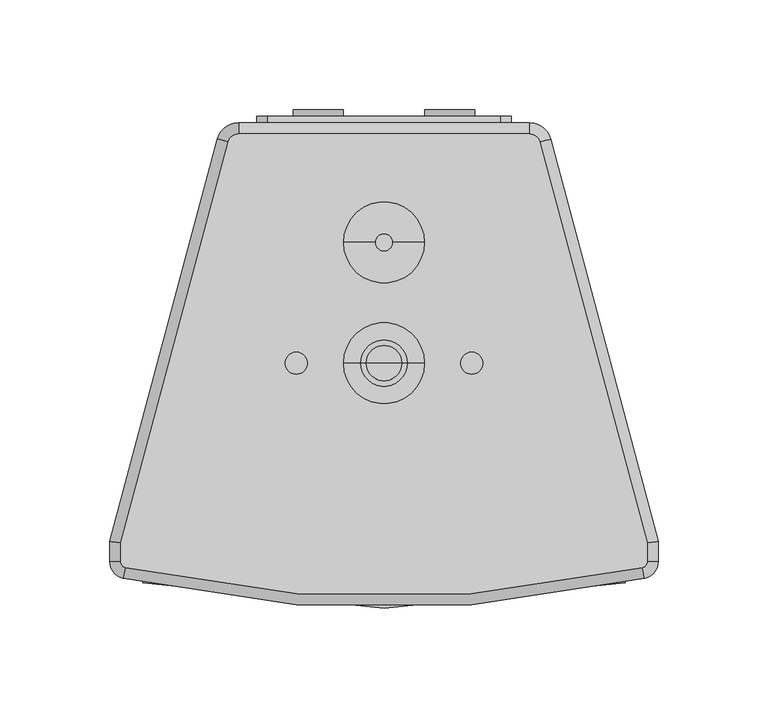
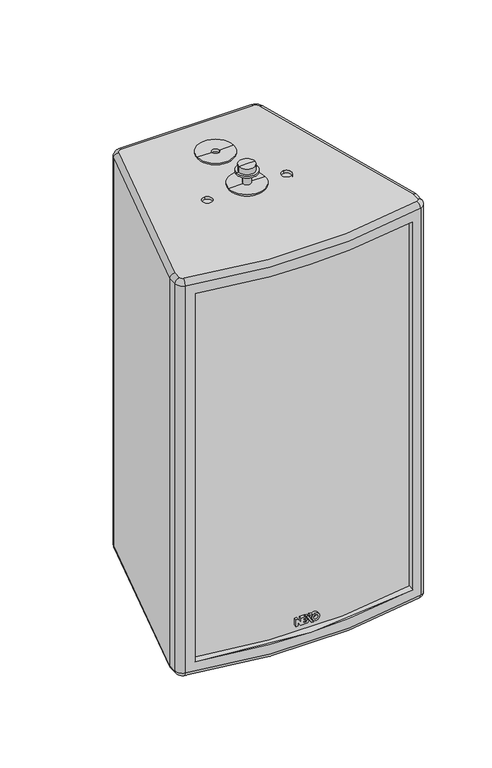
"""IFC4 building model written with IfcOpenShell, lengths in millimetres: proxy geometry, ePS8-HBRK425-WVM : ePS8-HBRK425-WVM."""

from ifc_helpers import new_model, si_unit, point, frame, frame_2d, origin, place, context, project, spatial, polyline, circle_curve, ellipse_curve, trimmed, segment, composite_curve, outline, extrude, source, transform, mapped, element, save
from ifc_brep_helpers import plane_surface, cylinder_surface, revolved_surface, advanced_brep


def generic_models_3f4bfca9(model_context):
    return source(origin(), model_context, "Body", "SolidModel", [
        extrude(outline(polyline([(-182.0590531, -11.9363528), (-189.3388202, -11.9363528), (-189.3388202, -10.0439855), (-185.1734899, -10.0439855), (-189.3388202, -7.2688886), (-189.3388202, -0.4179789), (-187.463849, 0.9005934), (-185.8643156, -0.1627837), (-187.7361557, -1.5323263), (-187.7361557, -4.5659556), (-186.4818684, -4.5659556), (-186.4818684, -2.2828427), (-184.8791381, -2.2828427), (-184.8791381, -4.5659556), (-183.6626349, -4.5659556), (-183.6626349, -2.1588809), (-182.8626349, -2.1588809), (-182.0599046, -2.6925396), (-182.0599046, -6.9609157), (-186.5099607, -6.9706073), (-182.0590531, -9.9098734), (-182.0590531, -11.9363528)])), frame((0.0, -298.5012591, 0.0), z_axis=(0.0, 1.0, 0.0), x_axis=(0.0, 0.0, 1.0)), (0.0, 0.0, 1.0), 3.0),
        extrude(outline(polyline([(-182.0590531, -2.0512245), (-190.3, 3.4273947), (-190.3, 5.6205974), (-182.0590531, 0.1419782), (-182.0590531, -2.0512245)])), frame((0.0, -298.5012591, 0.0), z_axis=(0.0, 1.0, 0.0), x_axis=(0.0, 0.0, 1.0)), (0.0, 0.0, 1.0), 3.0),
        extrude(outline(polyline([(-182.0590531, 4.6894095), (-182.0590531, 2.362619), (-183.3270101, 1.6148247), (-184.957904, 2.6990504), (-182.0590531, 4.6894095)])), frame((0.0, -298.5012591, 0.0), z_axis=(0.0, 1.0, 0.0), x_axis=(0.0, 0.0, 1.0)), (0.0, 0.0, 1.0), 3.0),
        extrude(outline(composite_curve([segment(trimmed(circle_curve(frame_2d((-185.7298911, 8.0750207)), 3.9406238), [point((-185.7298911, 4.1343969))], [point((-185.7298911, 12.0156446))], False, "CARTESIAN"), True, "CONTINUOUS"), segment(trimmed(circle_curve(frame_2d((-185.7298911, 8.0750207)), 3.9406238), [point((-185.7298911, 12.0156446))], [point((-185.7298911, 4.1343969))], False, "CARTESIAN"), True, "CONTINUOUS")], self_intersect=False), holes=[composite_curve([segment(trimmed(circle_curve(frame_2d((-185.7298911, 8.0750207)), 2.0681078), [point((-185.7298911, 6.0069129))], [point((-185.7298911, 10.1431285))], True, "CARTESIAN"), True, "CONTINUOUS"), segment(trimmed(circle_curve(frame_2d((-185.7298911, 8.0750207)), 2.0681078), [point((-185.7298911, 10.1431285))], [point((-185.7298911, 6.0069129))], True, "CARTESIAN"), True, "CONTINUOUS")], self_intersect=False)]), frame((0.0, -298.5012591, 0.0), z_axis=(0.0, 1.0, 0.0), x_axis=(0.0, 0.0, 1.0)), (0.0, 0.0, 1.0), 3.0),
        extrude(outline(composite_curve([segment(trimmed(circle_curve(frame_2d((-174.0, 30.0)), 11.4515227), [point((-174.0, 41.4515227))], [point((-174.0, 18.5484773))], False, "CARTESIAN"), True, "CONTINUOUS"), segment(trimmed(circle_curve(frame_2d((-174.0, 30.0)), 11.4515227), [point((-174.0, 18.5484773))], [point((-174.0, 41.4515227))], False, "CARTESIAN"), True, "CONTINUOUS")], self_intersect=False), holes=[composite_curve([segment(trimmed(circle_curve(frame_2d((-174.0, 30.0)), 5.0), [point((-174.0, 35.0))], [point((-174.0, 25.0))], True, "CARTESIAN"), True, "CONTINUOUS"), segment(trimmed(circle_curve(frame_2d((-174.0, 30.0)), 5.0), [point((-174.0, 25.0))], [point((-174.0, 35.0))], True, "CARTESIAN"), True, "CONTINUOUS")], self_intersect=False)]), frame((0.0, -79.5012591, 0.0), z_axis=(0.0, 1.0, 0.0), x_axis=(0.0, 0.0, 1.0)), (0.0, 0.0, 1.0), 3.0),
        extrude(outline(composite_curve([segment(trimmed(circle_curve(frame_2d((-174.0, -30.0)), 11.4515227), [point((-174.0, -18.5484773))], [point((-174.0, -41.4515227))], False, "CARTESIAN"), True, "CONTINUOUS"), segment(trimmed(circle_curve(frame_2d((-174.0, -30.0)), 11.4515227), [point((-174.0, -41.4515227))], [point((-174.0, -18.5484773))], False, "CARTESIAN"), True, "CONTINUOUS")], self_intersect=False), holes=[composite_curve([segment(trimmed(circle_curve(frame_2d((-174.0, -30.0)), 5.0), [point((-174.0, -25.0))], [point((-174.0, -35.0))], True, "CARTESIAN"), True, "CONTINUOUS"), segment(trimmed(circle_curve(frame_2d((-174.0, -30.0)), 5.0), [point((-174.0, -35.0))], [point((-174.0, -25.0))], True, "CARTESIAN"), True, "CONTINUOUS")], self_intersect=False)]), frame((0.0, -79.5012591, 0.0), z_axis=(0.0, 1.0, 0.0), x_axis=(0.0, 0.0, 1.0)), (0.0, 0.0, 1.0), 3.0),
        extrude(outline(composite_curve([segment(polyline([(-155.0, 53.0), (-155.0, -53.0)]), True, "CONTINUOUS"), segment(trimmed(circle_curve(frame_2d((-160.0, -53.0)), 5.0), [point((-155.0, -53.0))], [point((-160.0, -58.0))], False, "CARTESIAN"), True, "CONTINUOUS"), segment(polyline([(-160.0, -58.0), (-188.0, -58.0)]), True, "CONTINUOUS"), segment(trimmed(circle_curve(frame_2d((-188.0, -53.0)), 5.0), [point((-188.0, -58.0))], [point((-193.0, -53.0))], False, "CARTESIAN"), True, "CONTINUOUS"), segment(polyline([(-193.0, -53.0), (-193.0, 53.0)]), True, "CONTINUOUS"), segment(trimmed(circle_curve(frame_2d((-188.0, 53.0)), 5.0), [point((-193.0, 53.0))], [point((-188.0, 58.0))], False, "CARTESIAN"), True, "CONTINUOUS"), segment(polyline([(-188.0, 58.0), (-160.0, 58.0)]), True, "CONTINUOUS"), segment(trimmed(circle_curve(frame_2d((-160.0, 53.0)), 5.0), [point((-160.0, 58.0))], [point((-155.0, 53.0))], False, "CARTESIAN"), True, "CONTINUOUS")], self_intersect=False)), frame((0.0, -82.5012591, 0.0), z_axis=(0.0, 1.0, 0.0), x_axis=(0.0, 0.0, 1.0)), (0.0, 0.0, 1.0), 3.0),
        advanced_brep(
        [(-71.0680005, -91.2071639, 211.5), (-120.0, -273.8238721, 211.5), (-120.0, -282.3307346, 211.5), (-117.6705435, -285.2548364, 211.5), (117.6705435, -285.2548364, 211.5), (120.0, -282.3307346, 211.5), (120.0, -273.8238721, 211.5), (71.0680005, -91.2071639, 211.5), (66.2383714, -87.5012591, 211.5), (-66.2383714, -87.5012591, 211.5), (0.0, -197.0012591, 211.5), (0.0, -187.0012591, 211.5), (-40.0, -197.0012591, 211.5), (-40.0, -187.0012591, 211.5), (40.0, -197.0012591, 211.5), (40.0, -187.0012591, 211.5), (-120.0, -273.8238721, -211.5), (-71.0680005, -91.2071639, -211.5), (-66.2383714, -87.5012591, -211.5), (66.2383714, -87.5012591, -211.5), (71.0680005, -91.2071639, -211.5), (120.0, -273.8238721, -211.5), (120.0, -282.3307346, -211.5), (117.6705435, -285.2548364, -211.5), (-117.6705435, -285.2548364, -211.5), (-120.0, -282.3307346, -211.5), (0.0, -187.0012591, -211.5), (0.0, -197.0012591, -211.5), (-40.0, -187.0012591, -211.5), (-40.0, -197.0012591, -211.5), (40.0, -187.0012591, -211.5), (40.0, -197.0012591, -211.5), (-66.2383714, -82.5012591, 206.5), (66.2383714, -82.5012591, 206.5), (66.2383714, -82.5012591, -206.5), (-66.2383714, -82.5012591, -206.5), (-47.3432823, -82.5012591, 20.0043019), (-58.6566026, -82.5012591, 20.0043019), (22.6567177, -82.5012591, 20.0043019), (11.3433974, -82.5012591, 20.0043019), (22.6567177, -82.5012591, 90.0043019), (11.3433974, -82.5012591, 90.0043019), (118.788116, -290.1283395, 206.5), (-118.788116, -290.1283395, 206.5), (-118.788116, -290.1283395, -206.4999999), (118.788116, -290.1283395, -206.5), (-110.0, -292.0654279, 196.5), (110.0, -292.0654279, 196.5), (110.0, -292.0654279, -196.5), (-110.0, -292.0654279, -196.5), (125.0, -282.3307346, 206.5), (125.0, -282.3307346, -206.5), (125.0, -273.1656096, 206.5), (125.0, -273.1656096, -206.5), (75.8976296, -89.9130687, 206.5), (75.8976296, -89.9130687, -206.5), (-75.8976296, -89.9130687, 206.5), (-75.8976296, -89.9130687, -206.5), (-125.0, -273.1656096, 206.5), (-125.0, -273.1656096, -206.5), (-125.0, -282.3307346, 206.5), (-125.0, -282.3307346, -206.5), (0.0, -187.0012591, 208.5), (0.0, -197.0012591, 208.5), (-40.0, -187.0012591, 208.5), (-40.0, -197.0012591, 208.5), (40.0, -187.0012591, 208.5), (40.0, -197.0012591, 208.5), (-110.0, -285.324694, 196.5), (110.0, -285.2150263, 196.5), (110.0, -285.2150263, -196.5), (-110.0, -285.324694, -196.5), (0.0, -187.0012591, -208.5), (0.0, -197.0012591, -208.5), (-40.0, -187.0012591, -208.5), (-40.0, -197.0012591, -208.5), (40.0, -187.0012591, -208.5), (40.0, -197.0012591, -208.5), (-47.3432823, -85.5012591, 20.0043019), (-58.6566026, -85.5012591, 20.0043019), (22.6567177, -85.5012591, 20.0043019), (11.3433974, -85.5012591, 20.0043019), (22.6567177, -85.5012591, 90.0043019), (11.3433974, -85.5012591, 90.0043019)],
        [
            (0, 1),
            (1, 2),
            (2, 3, circle_curve(frame((-117.0, -282.3307346, 211.5), z_axis=(0.0, 0.0, 1.0), x_axis=(-0.2235144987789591, -0.9747006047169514, 0.0)), 3.0)),
            (3, 4, circle_curve(frame((0.0, 227.8821213, 211.5), z_axis=(0.0, 0.0, 1.0), x_axis=(0.22351449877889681, -0.9747006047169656, 0.0)), 526.4559755)),
            (4, 5, circle_curve(frame((117.0, -282.3307346, 211.5), z_axis=(0.0, 0.0, 1.0), x_axis=(1.0, 0.0, 0.0)), 3.0)),
            (5, 6),
            (6, 7),
            (7, 8, circle_curve(frame((66.2383714, -92.5012591, 211.5), z_axis=(0.0, 0.0, 1.0), x_axis=(0.0, 1.0, 0.0)), 5.0)),
            (8, 9),
            (9, 0, circle_curve(frame((-66.2383714, -92.5012591, 211.5), z_axis=(0.0, 0.0, 1.0), x_axis=(-0.965925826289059, 0.25881904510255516, 0.0)), 5.0)),
            (10, 11, circle_curve(frame((0.0, -192.0012591, 211.5), z_axis=(0.0, 0.0, -1.0), x_axis=(0.0, -1.0, 0.0)), 5.0)),
            (11, 10, circle_curve(frame((0.0, -192.0012591, 211.5), z_axis=(0.0, 0.0, -1.0), x_axis=(0.0, -1.0, 0.0)), 5.0)),
            (12, 13, circle_curve(frame((-40.0, -192.0012591, 211.5), z_axis=(0.0, 0.0, -1.0), x_axis=(0.0, -1.0, 0.0)), 5.0)),
            (13, 12, circle_curve(frame((-40.0, -192.0012591, 211.5), z_axis=(0.0, 0.0, -1.0), x_axis=(0.0, -1.0, 0.0)), 5.0)),
            (14, 15, circle_curve(frame((40.0, -192.0012591, 211.5), z_axis=(0.0, 0.0, -1.0), x_axis=(0.0, -1.0, 0.0)), 5.0)),
            (15, 14, circle_curve(frame((40.0, -192.0012591, 211.5), z_axis=(0.0, 0.0, -1.0), x_axis=(0.0, -1.0, 0.0)), 5.0)),
            (16, 17),
            (17, 18, circle_curve(frame((-66.2383714, -92.5012591, -211.5), z_axis=(0.0, 0.0, -1.0), x_axis=(-0.96592582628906, 0.2588190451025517, 0.0)), 5.0)),
            (18, 19),
            (19, 20, circle_curve(frame((66.2383714, -92.5012591, -211.5), z_axis=(0.0, 0.0, -1.0), x_axis=(0.0, 1.0, 0.0)), 5.0)),
            (20, 21),
            (21, 22),
            (22, 23, circle_curve(frame((117.0, -282.3307346, -211.5), z_axis=(0.0, 0.0, -1.0), x_axis=(1.0, 0.0, 0.0)), 3.0)),
            (23, 24, circle_curve(frame((0.0, 227.8821213, -211.5), z_axis=(0.0, 0.0, -1.0), x_axis=(0.22351449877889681, -0.9747006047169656, 0.0)), 526.4559755)),
            (24, 25, circle_curve(frame((-117.0, -282.3307346, -211.5), z_axis=(0.0, 0.0, -1.0), x_axis=(-0.2235144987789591, -0.9747006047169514, 0.0)), 3.0)),
            (25, 16),
            (26, 27, circle_curve(frame((0.0, -192.0012591, -211.5), z_axis=(0.0, 0.0, 1.0), x_axis=(0.0, -1.0, 0.0)), 5.0)),
            (27, 26, circle_curve(frame((0.0, -192.0012591, -211.5), z_axis=(0.0, 0.0, 1.0), x_axis=(0.0, -1.0, 0.0)), 5.0)),
            (28, 29, circle_curve(frame((-40.0, -192.0012591, -211.5), z_axis=(0.0, 0.0, 1.0), x_axis=(0.0, -1.0, 0.0)), 5.0)),
            (29, 28, circle_curve(frame((-40.0, -192.0012591, -211.5), z_axis=(0.0, 0.0, 1.0), x_axis=(0.0, -1.0, 0.0)), 5.0)),
            (30, 31, circle_curve(frame((40.0, -192.0012591, -211.5), z_axis=(0.0, 0.0, 1.0), x_axis=(0.0, -1.0, 0.0)), 5.0)),
            (31, 30, circle_curve(frame((40.0, -192.0012591, -211.5), z_axis=(0.0, 0.0, 1.0), x_axis=(0.0, -1.0, 0.0)), 5.0)),
            (32, 33),
            (33, 34),
            (34, 35),
            (35, 32),
            (36, 37, circle_curve(frame((-52.9999424, -82.5012591, 20.0043019), z_axis=(0.0, -1.0, 0.0), x_axis=(-1.0, 0.0, 0.0)), 5.6566602)),
            (37, 36, circle_curve(frame((-52.9999424, -82.5012591, 20.0043019), z_axis=(0.0, -1.0, 0.0), x_axis=(-1.0, 0.0, 0.0)), 5.6566602)),
            (38, 39, circle_curve(frame((17.0000576, -82.5012591, 20.0043019), z_axis=(0.0, -1.0, 0.0), x_axis=(-1.0, 0.0, 0.0)), 5.6566602)),
            (39, 38, circle_curve(frame((17.0000576, -82.5012591, 20.0043019), z_axis=(0.0, -1.0, 0.0), x_axis=(-1.0, 0.0, 0.0)), 5.6566602)),
            (40, 41, circle_curve(frame((17.0000576, -82.5012591, 90.0043019), z_axis=(0.0, -1.0, 0.0), x_axis=(-1.0, 0.0, 0.0)), 5.6566602)),
            (41, 40, circle_curve(frame((17.0000576, -82.5012591, 90.0043019), z_axis=(0.0, -1.0, 0.0), x_axis=(-1.0, 0.0, 0.0)), 5.6566602)),
            (42, 43, circle_curve(frame((0.0, 227.8821213, 206.5), z_axis=(0.0, 0.0, -1.0), x_axis=(1.0, 0.0, 0.0)), 531.4559755)),
            (43, 44),
            (44, 45, circle_curve(frame((0.0, 227.8821213, -206.5), z_axis=(0.0, 0.0, 1.0), x_axis=(1.0, 0.0, 0.0)), 531.4559755)),
            (45, 42),
            (46, 47, circle_curve(frame((0.0, 227.8821213, 196.5), z_axis=(0.0, 0.0, 1.0), x_axis=(1.0, 0.0, 0.0)), 531.4559755)),
            (47, 48),
            (48, 49, circle_curve(frame((0.0, 227.8821213, -196.5), z_axis=(0.0, 0.0, -1.0), x_axis=(1.0, 0.0, 0.0)), 531.4559755)),
            (49, 46),
            (50, 42, circle_curve(frame((117.0, -282.3307346, 206.5), z_axis=(0.0, 0.0, -1.0), x_axis=(1.0, 0.0, 0.0)), 8.0)),
            (45, 51, circle_curve(frame((117.0, -282.3307346, -206.5), z_axis=(0.0, 0.0, 1.0), x_axis=(1.0, 0.0, 0.0)), 8.0)),
            (51, 50),
            (52, 50),
            (51, 53),
            (53, 52),
            (54, 52),
            (53, 55),
            (55, 54),
            (33, 54, circle_curve(frame((66.2383714, -92.5012591, 206.5), z_axis=(0.0, 0.0, -1.0), x_axis=(1.0, 0.0, 0.0)), 10.0)),
            (55, 34, circle_curve(frame((66.2383714, -92.5012591, -206.5), z_axis=(0.0, 0.0, 1.0), x_axis=(1.0, 0.0, 0.0)), 10.0)),
            (56, 32, circle_curve(frame((-66.2383714, -92.5012591, 206.5), z_axis=(0.0, 0.0, -1.0), x_axis=(1.0, 0.0, 0.0)), 10.0)),
            (35, 57, circle_curve(frame((-66.2383714, -92.5012591, -206.5), z_axis=(0.0, 0.0, 1.0), x_axis=(1.0, 0.0, 0.0)), 10.0)),
            (57, 56),
            (58, 56),
            (57, 59),
            (59, 58),
            (60, 58),
            (59, 61),
            (61, 60),
            (43, 60, circle_curve(frame((-117.0, -282.3307346, 206.5), z_axis=(0.0, 0.0, -1.0), x_axis=(1.0, 0.0, 0.0)), 8.0)),
            (61, 44, circle_curve(frame((-117.0, -282.3307346, -206.5), z_axis=(0.0, 0.0, 1.0), x_axis=(1.0, 0.0, 0.0)), 8.0)),
            (62, 63, circle_curve(frame((0.0, -192.0012591, 208.5), z_axis=(0.0, 0.0, 1.0), x_axis=(0.0, -1.0, 0.0)), 5.0)),
            (63, 62, circle_curve(frame((0.0, -192.0012591, 208.5), z_axis=(0.0, 0.0, 1.0), x_axis=(0.0, -1.0, 0.0)), 5.0)),
            (64, 65, circle_curve(frame((-40.0, -192.0012591, 208.5), z_axis=(0.0, 0.0, 1.0), x_axis=(0.0, -1.0, 0.0)), 5.0)),
            (65, 64, circle_curve(frame((-40.0, -192.0012591, 208.5), z_axis=(0.0, 0.0, 1.0), x_axis=(0.0, -1.0, 0.0)), 5.0)),
            (66, 67, circle_curve(frame((40.0, -192.0012591, 208.5), z_axis=(0.0, 0.0, 1.0), x_axis=(0.0, -1.0, 0.0)), 5.0)),
            (67, 66, circle_curve(frame((40.0, -192.0012591, 208.5), z_axis=(0.0, 0.0, 1.0), x_axis=(0.0, -1.0, 0.0)), 5.0)),
            (62, 11),
            (10, 63),
            (64, 13),
            (12, 65),
            (66, 15),
            (14, 67),
            (46, 68),
            (68, 69, circle_curve(frame((-0.2540909, 224.4518941, 196.5), z_axis=(0.0, 0.0, 1.0), x_axis=(1.0, 0.0, 0.0)), 521.4559755)),
            (69, 47),
            (48, 70),
            (70, 71, circle_curve(frame((-0.2540909, 224.4518941, -196.5), z_axis=(0.0, 0.0, -1.0), x_axis=(1.0, 0.0, 0.0)), 521.4559755)),
            (71, 49),
            (69, 70),
            (68, 71),
            (0, 56, circle_curve(frame((-71.0680005, -91.2071639, 206.5), z_axis=(-0.25881904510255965, -0.9659258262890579, 0.0), x_axis=(-0.9659258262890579, 0.25881904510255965, 0.0)), 5.0)),
            (58, 1, ellipse_curve(frame((-120.0, -273.8238721, 206.5), z_axis=(0.1305261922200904, 0.9914448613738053, 0.0), x_axis=(0.9914448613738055, -0.13052619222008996, 0.0)), 5.0431448, 5.0)),
            (9, 32, circle_curve(frame((-66.2383714, -87.5012591, 206.5), z_axis=(-0.9999999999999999, 0.0, 0.0), x_axis=(0.0, 0.9999999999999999, 0.0)), 5.0)),
            (8, 33, circle_curve(frame((66.2383714, -87.5012591, 206.5), z_axis=(-1.0, 0.0, 0.0), x_axis=(0.0, 1.0, 0.0)), 5.0)),
            (7, 54, circle_curve(frame((71.0680005, -91.2071639, 206.5), z_axis=(-0.25881904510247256, 0.9659258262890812, 0.0), x_axis=(0.9659258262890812, 0.25881904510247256, 0.0)), 5.0)),
            (6, 52, ellipse_curve(frame((120.0, -273.8238721, 206.5), z_axis=(-0.13052619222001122, 0.9914448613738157, 0.0), x_axis=(0.9914448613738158, 0.1305261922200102, 0.0)), 5.0431448, 5.0)),
            (60, 2, circle_curve(frame((-120.0, -282.3307346, 206.5), z_axis=(0.0, 1.0, 0.0), x_axis=(-1.0, 0.0, 0.0)), 5.0)),
            (5, 50, circle_curve(frame((120.0, -282.3307346, 206.5), z_axis=(0.0, 1.0, 0.0), x_axis=(1.0, 0.0, 0.0)), 5.0)),
            (4, 42, circle_curve(frame((117.6705435, -285.2548364, 206.5), z_axis=(0.9747006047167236, 0.22351449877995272, 0.0), x_axis=(0.22351449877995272, -0.9747006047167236, 0.0)), 5.0)),
            (3, 43, circle_curve(frame((-117.6705435, -285.2548364, 206.5), z_axis=(0.97470060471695, -0.22351449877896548, 0.0), x_axis=(-0.22351449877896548, -0.97470060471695, 0.0)), 5.0)),
            (57, 17, circle_curve(frame((-71.0680005, -91.2071639, -206.5), z_axis=(-0.2588190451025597, -0.9659258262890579, 0.0), x_axis=(-0.9659258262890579, 0.2588190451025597, 0.0)), 5.0)),
            (16, 59, ellipse_curve(frame((-120.0, -273.8238721, -206.5), z_axis=(0.13052619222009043, 0.9914448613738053, 0.0), x_axis=(0.9914448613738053, -0.1305261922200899, 0.0)), 5.0431448, 5.0)),
            (35, 18, circle_curve(frame((-66.2383714, -87.5012591, -206.5), z_axis=(-1.0, 0.0, 0.0), x_axis=(0.0, 1.0, 0.0)), 5.0)),
            (34, 19, circle_curve(frame((66.2383714, -87.5012591, -206.5), z_axis=(-1.0, 0.0, 0.0), x_axis=(0.0, 1.0, 0.0)), 5.0)),
            (55, 20, circle_curve(frame((71.0680005, -91.2071639, -206.5), z_axis=(-0.25881904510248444, 0.9659258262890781, 0.0), x_axis=(0.9659258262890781, 0.25881904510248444, 0.0)), 5.0)),
            (53, 21, ellipse_curve(frame((120.0, -273.8238721, -206.5), z_axis=(-0.13052619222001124, 0.9914448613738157, 0.0), x_axis=(0.9914448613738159, 0.13052619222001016, 0.0)), 5.0431448, 5.0)),
            (25, 61, circle_curve(frame((-120.0, -282.3307346, -206.5), z_axis=(0.0, 1.0, 0.0), x_axis=(-1.0, 0.0, 0.0)), 5.0)),
            (51, 22, circle_curve(frame((120.0, -282.3307346, -206.5), z_axis=(0.0, 1.0, 0.0), x_axis=(1.0, 0.0, 0.0)), 5.0)),
            (45, 23, circle_curve(frame((117.6705435, -285.2548364, -206.5), z_axis=(0.9747006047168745, 0.22351449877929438, 0.0), x_axis=(0.22351449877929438, -0.9747006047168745, 0.0)), 5.0)),
            (44, 24, circle_curve(frame((-117.6705435, -285.2548364, -206.5), z_axis=(0.97470060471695, -0.2235144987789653, 0.0), x_axis=(-0.2235144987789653, -0.97470060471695, 0.0)), 5.0)),
            (72, 73, circle_curve(frame((0.0, -192.0012591, -208.5), z_axis=(0.0, 0.0, -1.0), x_axis=(0.0, -1.0, 0.0)), 5.0)),
            (73, 72, circle_curve(frame((0.0, -192.0012591, -208.5), z_axis=(0.0, 0.0, -1.0), x_axis=(0.0, -1.0, 0.0)), 5.0)),
            (74, 75, circle_curve(frame((-40.0, -192.0012591, -208.5), z_axis=(0.0, 0.0, -1.0), x_axis=(0.0, -1.0, 0.0)), 5.0)),
            (75, 74, circle_curve(frame((-40.0, -192.0012591, -208.5), z_axis=(0.0, 0.0, -1.0), x_axis=(0.0, -1.0, 0.0)), 5.0)),
            (76, 77, circle_curve(frame((40.0, -192.0012591, -208.5), z_axis=(0.0, 0.0, -1.0), x_axis=(0.0, -1.0, 0.0)), 5.0)),
            (77, 76, circle_curve(frame((40.0, -192.0012591, -208.5), z_axis=(0.0, 0.0, -1.0), x_axis=(0.0, -1.0, 0.0)), 5.0)),
            (73, 27),
            (26, 72),
            (75, 29),
            (28, 74),
            (77, 31),
            (30, 76),
            (78, 79, circle_curve(frame((-52.9999424, -85.5012591, 20.0043019), z_axis=(0.0, 1.0, 0.0), x_axis=(-1.0, 0.0, 0.0)), 5.6566602)),
            (79, 78, circle_curve(frame((-52.9999424, -85.5012591, 20.0043019), z_axis=(0.0, 1.0, 0.0), x_axis=(-1.0, 0.0, 0.0)), 5.6566602)),
            (80, 81, circle_curve(frame((17.0000576, -85.5012591, 20.0043019), z_axis=(0.0, 1.0, 0.0), x_axis=(-1.0, 0.0, 0.0)), 5.6566602)),
            (81, 80, circle_curve(frame((17.0000576, -85.5012591, 20.0043019), z_axis=(0.0, 1.0, 0.0), x_axis=(-1.0, 0.0, 0.0)), 5.6566602)),
            (82, 83, circle_curve(frame((17.0000576, -85.5012591, 90.0043019), z_axis=(0.0, 1.0, 0.0), x_axis=(-1.0, 0.0, 0.0)), 5.6566602)),
            (83, 82, circle_curve(frame((17.0000576, -85.5012591, 90.0043019), z_axis=(0.0, 1.0, 0.0), x_axis=(-1.0, 0.0, 0.0)), 5.6566602)),
            (79, 37),
            (36, 78),
            (81, 39),
            (38, 80),
            (83, 41),
            (40, 82),
        ],
        [
            plane_surface(frame((125.0, -282.3307346, 211.5), z_axis=(0.0, 0.0, 1.0), x_axis=(0.0, 1.0, 0.0))),
            plane_surface(frame((125.0, -282.3307346, -211.5), z_axis=(0.0, 0.0, -1.0), x_axis=(0.0, -1.0, 0.0))),
            plane_surface(frame((66.2383714, -82.5012591, 211.5), z_axis=(0.0, 1.0, 0.0), x_axis=(0.0, 0.0, -1.0))),
            cylinder_surface(frame((0.0, 227.8821213, -211.5), z_axis=(0.0, 0.0, 1.0), x_axis=(1.0, 0.0, 0.0)), 531.4559755),
            cylinder_surface(frame((117.0, -282.3307346, -211.5), z_axis=(0.0, 0.0, 1.0), x_axis=(1.0, 0.0, 0.0)), 8.0),
            plane_surface(frame((125.0, -282.3307346, 211.5), z_axis=(1.0, 0.0, 0.0), x_axis=(0.0, 0.0, -1.0))),
            plane_surface(frame((125.0, -273.1656096, 211.5), z_axis=(0.9659258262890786, 0.2588190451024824, 0.0), x_axis=(0.0, 0.0, -1.0))),
            cylinder_surface(frame((66.2383714, -92.5012591, -211.5), z_axis=(0.0, 0.0, 1.0), x_axis=(1.0, 0.0, 0.0)), 10.0),
            cylinder_surface(frame((-66.2383714, -92.5012591, -211.5), z_axis=(0.0, 0.0, 1.0), x_axis=(1.0, 0.0, 0.0)), 10.0),
            plane_surface(frame((-75.8976296, -89.9130687, 211.5), z_axis=(-0.965925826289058, 0.25881904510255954, 0.0), x_axis=(0.0, 0.0, -1.0))),
            plane_surface(frame((-125.0, -273.1656096, 211.5), z_axis=(-1.0, 0.0, 0.0), x_axis=(0.0, 0.0, -1.0))),
            cylinder_surface(frame((-117.0, -282.3307346, -211.5), z_axis=(0.0, 0.0, 1.0), x_axis=(1.0, 0.0, 0.0)), 8.0),
            plane_surface(frame((0.0, -197.0012591, 208.5), z_axis=(0.0, 0.0, 1.0), x_axis=(-1.0, 0.0, 0.0))),
            revolved_surface(polyline([(0.0, -197.0012591, 211.5), (0.0, -197.0012591, 208.5)]), (0.0, -192.0012591, 208.5), (0.0, 0.0, 1.0)),
            revolved_surface(polyline([(-40.0, -197.0012591, 211.5), (-40.0, -197.0012591, 208.5)]), (-40.0, -192.0012591, 211.5), (0.0, 0.0, 1.0)),
            revolved_surface(polyline([(40.0, -197.0012591, 211.5), (40.0, -197.0012591, 208.5)]), (40.0, -192.0012591, 211.5), (0.0, 0.0, 1.0)),
            plane_surface(frame((110.0, -349.7611769, 196.5), z_axis=(0.0, 0.0, -1.0), x_axis=(0.0, 1.0, 0.0))),
            plane_surface(frame((110.0, -349.7611769, -196.5), z_axis=(0.0, 0.0, 1.0), x_axis=(0.0, -1.0, 0.0))),
            plane_surface(frame((110.0, -292.0654279, 196.5), z_axis=(-1.0, 0.0, 0.0), x_axis=(0.0, 0.0, -1.0))),
            cylinder_surface(frame((-0.2540909, 224.4518941, -196.5), z_axis=(0.0, 0.0, -1.0), x_axis=(1.0, 0.0, 0.0)), 521.4559755),
            plane_surface(frame((-110.0, -285.324694, 196.5), z_axis=(1.0, 0.0, 0.0), x_axis=(0.0, 0.0, -1.0))),
            cylinder_surface(frame((-120.1703709, -274.4597049, 206.5), z_axis=(0.25881904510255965, 0.9659258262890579, 0.0), x_axis=(-0.9659258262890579, 0.25881904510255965, 0.0)), 5.0),
            revolved_surface(trimmed(ellipse_curve(frame((-71.0680005, -91.2071639, 206.5), z_axis=(-0.25881904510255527, -0.965925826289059, 0.0), x_axis=(-0.965925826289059, 0.25881904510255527, 0.0)), 5.0, 5.0), [point((-71.0680005, -91.2071639, 211.5))], [point((-75.8976296, -89.9130687, 206.5))], True, "CARTESIAN"), (-66.2383714, -92.5012591, 211.5), (0.0, 0.0, -1.0)),
            cylinder_surface(frame((-66.2383714, -87.5012591, 206.5), z_axis=(1.0, 0.0, 0.0), x_axis=(0.0, 1.0, 0.0)), 5.0),
            revolved_surface(trimmed(ellipse_curve(frame((66.2383714, -87.5012591, 206.5), z_axis=(-1.0, 0.0, 0.0), x_axis=(0.0, 1.0, 0.0)), 5.0, 5.0), [point((66.2383714, -87.5012591, 211.5))], [point((66.2383714, -82.5012591, 206.5))], True, "CARTESIAN"), (66.2383714, -92.5012591, 211.5), (0.0, 0.0, -1.0)),
            cylinder_surface(frame((71.0680005, -91.2071639, 206.5), z_axis=(0.2588190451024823, -0.9659258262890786, 0.0), x_axis=(0.9659258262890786, 0.2588190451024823, 0.0)), 5.0),
            cylinder_surface(frame((-120.0, -282.3307346, 206.5), z_axis=(0.0, 1.0, 0.0), x_axis=(-1.0, 0.0, 0.0)), 5.0),
            cylinder_surface(frame((120.0, -273.1656096, 206.5), z_axis=(0.0, -1.0, 0.0), x_axis=(1.0, 0.0, 0.0)), 5.0),
            revolved_surface(trimmed(ellipse_curve(frame((120.0, -282.3307346, 206.5), z_axis=(0.0, 1.0, 0.0), x_axis=(1.0, 0.0, 0.0)), 5.0, 5.0), [point((120.0, -282.3307346, 211.5))], [point((125.0, -282.3307346, 206.5))], True, "CARTESIAN"), (117.0, -282.3307346, 211.5), (0.0, 0.0, -1.0)),
            revolved_surface(trimmed(ellipse_curve(frame((117.6705435, -285.2548364, 206.5), z_axis=(0.9747006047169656, 0.22351449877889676, 0.0), x_axis=(0.22351449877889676, -0.9747006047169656, 0.0)), 5.0, 5.0), [point((117.6705435, -285.2548364, 211.5))], [point((118.788116, -290.1283395, 206.5))], True, "CARTESIAN"), (0.0, 227.8821213, 211.5), (0.0, 0.0, -1.0)),
            revolved_surface(trimmed(ellipse_curve(frame((-117.6705435, -285.2548364, 206.5), z_axis=(0.9747006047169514, -0.2235144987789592, 0.0), x_axis=(-0.2235144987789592, -0.9747006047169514, 0.0)), 5.0, 5.0), [point((-117.6705435, -285.2548364, 211.5))], [point((-118.788116, -290.1283395, 206.5))], True, "CARTESIAN"), (-117.0, -282.3307346, 211.5), (0.0, 0.0, -1.0)),
            cylinder_surface(frame((-120.1703709, -274.4597049, -206.5), z_axis=(0.2588190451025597, 0.9659258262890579, 0.0), x_axis=(-0.9659258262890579, 0.2588190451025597, 0.0)), 5.0),
            revolved_surface(trimmed(ellipse_curve(frame((-71.0680005, -91.2071639, -206.5), z_axis=(-0.25881904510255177, -0.96592582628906, 0.0), x_axis=(-0.96592582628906, 0.25881904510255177, 0.0)), 5.0, 5.0), [point((-75.8976296, -89.9130687, -206.5))], [point((-71.0680005, -91.2071639, -211.5))], True, "CARTESIAN"), (-66.2383714, -92.5012591, -211.5), (0.0, 0.0, -1.0)),
            cylinder_surface(frame((-66.2383714, -87.5012591, -206.5), z_axis=(1.0, 0.0, 0.0), x_axis=(0.0, 1.0, 0.0)), 5.0),
            revolved_surface(trimmed(ellipse_curve(frame((66.2383714, -87.5012591, -206.5), z_axis=(-1.0, 0.0, 0.0), x_axis=(0.0, 1.0, 0.0)), 5.0, 5.0), [point((66.2383714, -82.5012591, -206.5))], [point((66.2383714, -87.5012591, -211.5))], True, "CARTESIAN"), (66.2383714, -92.5012591, -211.5), (0.0, 0.0, -1.0)),
            cylinder_surface(frame((71.0680005, -91.2071639, -206.5), z_axis=(0.2588190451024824, -0.9659258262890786, 0.0), x_axis=(0.9659258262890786, 0.2588190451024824, 0.0)), 5.0),
            cylinder_surface(frame((-120.0, -282.3307346, -206.5), z_axis=(0.0, 1.0, 0.0), x_axis=(-1.0, 0.0, 0.0)), 5.0),
            cylinder_surface(frame((120.0, -273.1656096, -206.5), z_axis=(0.0, -1.0, 0.0), x_axis=(1.0, 0.0, 0.0)), 5.0),
            revolved_surface(trimmed(ellipse_curve(frame((120.0, -282.3307346, -206.5), z_axis=(0.0, 1.0, 0.0), x_axis=(1.0, 0.0, 0.0)), 5.0, 5.0), [point((125.0, -282.3307346, -206.5))], [point((120.0, -282.3307346, -211.5))], True, "CARTESIAN"), (117.0, -282.3307346, -211.5), (0.0, 0.0, -1.0)),
            revolved_surface(trimmed(ellipse_curve(frame((117.6705435, -285.2548364, -206.5), z_axis=(0.9747006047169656, 0.2235144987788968, 0.0), x_axis=(0.2235144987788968, -0.9747006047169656, 0.0)), 5.0, 5.0), [point((118.788116, -290.1283395, -206.5))], [point((117.6705435, -285.2548364, -211.5))], True, "CARTESIAN"), (0.0, 227.8821213, -211.5), (0.0, 0.0, -1.0)),
            revolved_surface(trimmed(ellipse_curve(frame((-117.6705435, -285.2548364, -206.5), z_axis=(0.9747006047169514, -0.22351449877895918, 0.0), x_axis=(-0.22351449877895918, -0.9747006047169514, 0.0)), 5.0, 5.0), [point((-118.788116, -290.1283395, -206.5))], [point((-117.6705435, -285.2548364, -211.5))], True, "CARTESIAN"), (-117.0, -282.3307346, -211.5), (0.0, 0.0, -1.0)),
            plane_surface(frame((0.0, -197.0012591, -208.5), z_axis=(0.0, 0.0, -1.0), x_axis=(1.0, 0.0, 0.0))),
            revolved_surface(polyline([(0.0, -197.0012591, -208.5), (0.0, -197.0012591, -211.5)]), (0.0, -192.0012591, -214.5), (0.0, 0.0, 1.0)),
            revolved_surface(polyline([(-40.0, -197.0012591, -208.5), (-40.0, -197.0012591, -211.5)]), (-40.0, -192.0012591, -211.5), (0.0, 0.0, 1.0)),
            revolved_surface(polyline([(40.0, -197.0012591, -208.5), (40.0, -197.0012591, -211.5)]), (40.0, -192.0012591, -211.5), (0.0, 0.0, 1.0)),
            plane_surface(frame((-58.6566026, -85.5012591, 20.0043019), z_axis=(0.0, 1.0, 0.0), x_axis=(0.0, 0.0, -1.0))),
            revolved_surface(polyline([(-58.6566026, -82.5012591, 20.0043019), (-58.6566026, -85.5012591, 20.0043019)]), (-52.9999424, -85.5012591, 20.0043019), (0.0, 1.0, 0.0)),
            revolved_surface(polyline([(11.3433974, -82.5012591, 20.0043019), (11.3433974, -85.5012591, 20.0043019)]), (17.0000576, -82.5012591, 20.0043019), (0.0, 1.0, 0.0)),
            revolved_surface(polyline([(11.3433974, -82.5012591, 90.0043019), (11.3433974, -85.5012591, 90.0043019)]), (17.0000576, -82.5012591, 90.0043019), (0.0, 1.0, 0.0)),
        ],
        [
            (0, [[1, 2, 3, 4, 5, 6, 7, 8, 9, 10], [11, 12], [13, 14], [15, 16]]),
            (1, [[17, 18, 19, 20, 21, 22, 23, 24, 25, 26], [27, 28], [29, 30], [31, 32]]),
            (2, [[33, 34, 35, 36], [37, 38], [39, 40], [41, 42]]),
            (3, [[43, 44, 45, 46], [47, 48, 49, 50]]),
            (4, [[51, -46, 52, 53]]),
            (5, [[54, -53, 55, 56]]),
            (6, [[57, -56, 58, 59]]),
            (7, [[60, -59, 61, -34]]),
            (8, [[62, -36, 63, 64]]),
            (9, [[65, -64, 66, 67]]),
            (10, [[68, -67, 69, 70]]),
            (11, [[71, -70, 72, -44]]),
            (12, [[73, 74]]),
            (12, [[75, 76]]),
            (12, [[77, 78]]),
            (13, [[-73, 79, -11, 80]]),
            (13, [[-74, -80, -12, -79]]),
            (14, [[-75, 81, -13, 82]]),
            (14, [[-76, -82, -14, -81]]),
            (15, [[-77, 83, -15, 84]]),
            (15, [[-78, -84, -16, -83]]),
            (16, [[85, 86, 87, -47]]),
            (17, [[88, 89, 90, -49]]),
            (18, [[-87, 91, -88, -48]]),
            (19, [[-86, 92, -89, -91]]),
            (20, [[-85, -50, -90, -92]]),
            (21, [[93, -65, 94, -1]]),
            (22, [[-93, -10, 95, -62]]),
            (23, [[-95, -9, 96, -33]]),
            (24, [[-96, -8, 97, -60]]),
            (25, [[-97, -7, 98, -57]]),
            (26, [[-94, -68, 99, -2]]),
            (27, [[-98, -6, 100, -54]]),
            (28, [[-100, -5, 101, -51]]),
            (29, [[-101, -4, 102, -43]]),
            (30, [[-99, -71, -102, -3]]),
            (31, [[103, -17, 104, -66]]),
            (32, [[-103, -63, 105, -18]]),
            (33, [[-105, -35, 106, -19]]),
            (34, [[-106, -61, 107, -20]]),
            (35, [[-107, -58, 108, -21]]),
            (36, [[-104, -26, 109, -69]]),
            (37, [[-108, -55, 110, -22]]),
            (38, [[-110, -52, 111, -23]]),
            (39, [[-111, -45, 112, -24]]),
            (40, [[-109, -25, -112, -72]]),
            (41, [[113, 114]]),
            (41, [[115, 116]]),
            (41, [[117, 118]]),
            (42, [[-114, 119, -27, 120]]),
            (42, [[-113, -120, -28, -119]]),
            (43, [[-116, 121, -29, 122]]),
            (43, [[-115, -122, -30, -121]]),
            (44, [[-118, 123, -31, 124]]),
            (44, [[-117, -124, -32, -123]]),
            (45, [[125, 126]]),
            (45, [[127, 128]]),
            (45, [[129, 130]]),
            (46, [[-126, 131, -37, 132]]),
            (46, [[-125, -132, -38, -131]]),
            (47, [[-128, 133, -39, 134]]),
            (47, [[-127, -134, -40, -133]]),
            (48, [[-130, 135, -41, 136]]),
            (48, [[-129, -136, -42, -135]]),
        ],
    ),
        advanced_brep(
        [(3.972567, -137.0012591, 216.0), (-3.972567, -137.0012591, 216.0), (-18.442415, -137.0012591, 216.0), (18.442415, -137.0012591, 216.0), (-15.442415, -137.0012591, 213.0), (15.442415, -137.0012591, 213.0), (-3.972567, -137.0012591, 213.0), (3.972567, -137.0012591, 213.0)],
        [
            (0, 1, circle_curve(frame((0.0, -137.0012591, 216.0), z_axis=(0.0, 0.0, -1.0), x_axis=(-1.0, 0.0, 0.0)), 3.972567)),
            (1, 2),
            (2, 3, circle_curve(frame((0.0, -137.0012591, 216.0), z_axis=(0.0, 0.0, 1.0), x_axis=(-1.0, 0.0, 0.0)), 18.442415)),
            (3, 0),
            (1, 0, circle_curve(frame((0.0, -137.0012591, 216.0), z_axis=(0.0, 0.0, -1.0), x_axis=(-1.0, 0.0, 0.0)), 3.972567)),
            (3, 2, circle_curve(frame((0.0, -137.0012591, 216.0), z_axis=(0.0, 0.0, 1.0), x_axis=(-1.0, 0.0, 0.0)), 18.442415)),
            (2, 4, circle_curve(frame((-15.442415, -137.0012591, 216.0), z_axis=(0.0, -1.0, 0.0), x_axis=(0.0, 0.0, -1.0)), 3.0)),
            (4, 5, circle_curve(frame((0.0, -137.0012591, 213.0), z_axis=(0.0, 0.0, 1.0), x_axis=(-1.0, 0.0, 0.0)), 15.442415)),
            (5, 3, circle_curve(frame((15.442415, -137.0012591, 216.0), z_axis=(0.0, -1.0, 0.0), x_axis=(0.0, 0.0, -1.0)), 3.0)),
            (5, 4, circle_curve(frame((0.0, -137.0012591, 213.0), z_axis=(0.0, 0.0, 1.0), x_axis=(-1.0, 0.0, 0.0)), 15.442415)),
            (4, 6),
            (6, 7, circle_curve(frame((0.0, -137.0012591, 213.0), z_axis=(0.0, 0.0, 1.0), x_axis=(-1.0, 0.0, 0.0)), 3.972567)),
            (7, 5),
            (7, 6, circle_curve(frame((0.0, -137.0012591, 213.0), z_axis=(0.0, 0.0, 1.0), x_axis=(-1.0, 0.0, 0.0)), 3.972567)),
            (6, 1),
            (0, 7),
        ],
        [
            plane_surface(frame((0.0, -137.0012591, 216.0), z_axis=(0.0, 0.0, 1.0), x_axis=(-1.0, 0.0, 0.0))),
            revolved_surface(trimmed(ellipse_curve(frame((-15.442415, -137.0012591, 216.0), z_axis=(0.0, 1.0, 0.0), x_axis=(0.0, 0.0, -1.0)), 3.0, 3.0), [point((-15.442415, -137.0012591, 213.0))], [point((-18.442415, -137.0012591, 216.0))], True, "CARTESIAN"), (0.0, -137.0012591, 203.2578639), (0.0, 0.0, 1.0)),
            plane_surface(frame((0.0, -137.0012591, 213.0), z_axis=(0.0, 0.0, -1.0), x_axis=(-1.0, 0.0, 0.0))),
            revolved_surface(polyline([(-3.972567, -137.0012591, 216.0), (-3.972567, -137.0012591, 213.0)]), (0.0, -137.0012591, 203.2578639), (0.0, 0.0, 1.0)),
        ],
        [
            (0, [[1, 2, 3, 4]]),
            (0, [[5, -4, 6, -2]]),
            (1, [[-3, 7, 8, 9]]),
            (1, [[-6, -9, 10, -7]]),
            (2, [[-8, 11, 12, 13]]),
            (2, [[-10, -13, 14, -11]]),
            (3, [[-12, 15, -1, 16]]),
            (3, [[-14, -16, -5, -15]]),
        ],
    ),
        advanced_brep(
        [(18.442415, -137.0012591, -216.0), (-18.442415, -137.0012591, -216.0), (-3.972567, -137.0012591, -216.0), (3.972567, -137.0012591, -216.0), (15.442415, -137.0012591, -213.0), (-15.442415, -137.0012591, -213.0), (3.972567, -137.0012591, -213.0), (-3.972567, -137.0012591, -213.0)],
        [
            (0, 1, circle_curve(frame((0.0, -137.0012591, -216.0), z_axis=(0.0, 0.0, -1.0), x_axis=(-1.0, 0.0, 0.0)), 18.442415)),
            (1, 2),
            (2, 3, circle_curve(frame((0.0, -137.0012591, -216.0), z_axis=(0.0, 0.0, 1.0), x_axis=(-1.0, 0.0, 0.0)), 3.972567)),
            (3, 0),
            (1, 0, circle_curve(frame((0.0, -137.0012591, -216.0), z_axis=(0.0, 0.0, -1.0), x_axis=(-1.0, 0.0, 0.0)), 18.442415)),
            (3, 2, circle_curve(frame((0.0, -137.0012591, -216.0), z_axis=(0.0, 0.0, 1.0), x_axis=(-1.0, 0.0, 0.0)), 3.972567)),
            (4, 5, circle_curve(frame((0.0, -137.0012591, -213.0), z_axis=(0.0, 0.0, -1.0), x_axis=(-1.0, 0.0, 0.0)), 15.442415)),
            (5, 1, circle_curve(frame((-15.442415, -137.0012591, -216.0), z_axis=(0.0, -1.0, 0.0), x_axis=(0.0, 0.0, 1.0)), 3.0)),
            (0, 4, circle_curve(frame((15.442415, -137.0012591, -216.0), z_axis=(0.0, -1.0, 0.0), x_axis=(0.0, 0.0, 1.0)), 3.0)),
            (5, 4, circle_curve(frame((0.0, -137.0012591, -213.0), z_axis=(0.0, 0.0, -1.0), x_axis=(-1.0, 0.0, 0.0)), 15.442415)),
            (6, 7, circle_curve(frame((0.0, -137.0012591, -213.0), z_axis=(0.0, 0.0, -1.0), x_axis=(-1.0, 0.0, 0.0)), 3.972567)),
            (7, 5),
            (4, 6),
            (7, 6, circle_curve(frame((0.0, -137.0012591, -213.0), z_axis=(0.0, 0.0, -1.0), x_axis=(-1.0, 0.0, 0.0)), 3.972567)),
            (2, 7),
            (6, 3),
        ],
        [
            plane_surface(frame((0.0, -137.0012591, -216.0), z_axis=(0.0, 0.0, -1.0), x_axis=(-1.0, 0.0, 0.0))),
            revolved_surface(trimmed(ellipse_curve(frame((-15.442415, -137.0012591, -216.0), z_axis=(0.0, 1.0, 0.0), x_axis=(0.0, 0.0, 1.0)), 3.0, 3.0), [point((-18.442415, -137.0012591, -216.0))], [point((-15.442415, -137.0012591, -213.0))], True, "CARTESIAN"), (0.0, -137.0012591, -203.2578639), (0.0, 0.0, 1.0)),
            plane_surface(frame((0.0, -137.0012591, -213.0), z_axis=(0.0, 0.0, 1.0), x_axis=(-1.0, 0.0, 0.0))),
            revolved_surface(polyline([(-3.972567, -137.0012591, -213.0), (-3.972567, -137.0012591, -216.0)]), (0.0, -137.0012591, -203.2578639), (0.0, 0.0, 1.0)),
        ],
        [
            (0, [[1, 2, 3, 4]]),
            (0, [[5, -4, 6, -2]]),
            (1, [[7, 8, -1, 9]]),
            (1, [[10, -9, -5, -8]]),
            (2, [[11, 12, -7, 13]]),
            (2, [[14, -13, -10, -12]]),
            (3, [[-3, 15, -11, 16]]),
            (3, [[-6, -16, -14, -15]]),
        ],
    ),
        advanced_brep(
        [(4.0553577, -192.0012591, 216.0), (-4.0553577, -192.0012591, 216.0), (-18.442415, -192.0012591, 216.0), (18.442415, -192.0012591, 216.0), (-15.442415, -192.0012591, 213.0), (15.442415, -192.0012591, 213.0), (-4.0553577, -192.0012591, 213.0), (4.0553577, -192.0012591, 213.0), (-4.0553577, -192.0012591, 212.0), (4.0553577, -192.0012591, 212.0), (0.0, -192.0012591, 212.0), (0.0, -192.0012591, 236.0), (-8.0750303, -192.0012591, 236.0), (8.0750303, -192.0012591, 236.0), (-8.0750303, -192.0012591, 230.0), (8.0750303, -192.0012591, 230.0), (-10.555922, -192.0012591, 230.0), (10.555922, -192.0012591, 230.0), (-10.555922, -192.0012591, 228.0), (10.555922, -192.0012591, 228.0), (-4.0553577, -192.0012591, 228.0), (4.0553577, -192.0012591, 228.0)],
        [
            (0, 1, circle_curve(frame((0.0, -192.0012591, 216.0), z_axis=(0.0, 0.0, -1.0), x_axis=(-1.0, 0.0, 0.0)), 4.0553577)),
            (1, 2),
            (2, 3, circle_curve(frame((0.0, -192.0012591, 216.0), z_axis=(0.0, 0.0, 1.0), x_axis=(-1.0, 0.0, 0.0)), 18.442415)),
            (3, 0),
            (1, 0, circle_curve(frame((0.0, -192.0012591, 216.0), z_axis=(0.0, 0.0, -1.0), x_axis=(-1.0, 0.0, 0.0)), 4.0553577)),
            (3, 2, circle_curve(frame((0.0, -192.0012591, 216.0), z_axis=(0.0, 0.0, 1.0), x_axis=(-1.0, 0.0, 0.0)), 18.442415)),
            (2, 4, circle_curve(frame((-15.442415, -192.0012591, 216.0), z_axis=(0.0, -1.0, 0.0), x_axis=(0.0, 0.0, -1.0)), 3.0)),
            (4, 5, circle_curve(frame((0.0, -192.0012591, 213.0), z_axis=(0.0, 0.0, 1.0), x_axis=(-1.0, 0.0, 0.0)), 15.442415)),
            (5, 3, circle_curve(frame((15.442415, -192.0012591, 216.0), z_axis=(0.0, -1.0, 0.0), x_axis=(0.0, 0.0, -1.0)), 3.0)),
            (5, 4, circle_curve(frame((0.0, -192.0012591, 213.0), z_axis=(0.0, 0.0, 1.0), x_axis=(-1.0, 0.0, 0.0)), 15.442415)),
            (4, 6),
            (6, 7, circle_curve(frame((0.0, -192.0012591, 213.0), z_axis=(0.0, 0.0, 1.0), x_axis=(-1.0, 0.0, 0.0)), 4.0553577)),
            (7, 5),
            (7, 6, circle_curve(frame((0.0, -192.0012591, 213.0), z_axis=(0.0, 0.0, 1.0), x_axis=(-1.0, 0.0, 0.0)), 4.0553577)),
            (6, 8),
            (8, 9, circle_curve(frame((0.0, -192.0012591, 212.0), z_axis=(0.0, 0.0, 1.0), x_axis=(-1.0, 0.0, 0.0)), 4.0553577)),
            (9, 7),
            (9, 8, circle_curve(frame((0.0, -192.0012591, 212.0), z_axis=(0.0, 0.0, 1.0), x_axis=(-1.0, 0.0, 0.0)), 4.0553577)),
            (8, 10),
            (10, 9),
            (11, 12),
            (12, 13, circle_curve(frame((0.0, -192.0012591, 236.0), z_axis=(0.0, 0.0, 1.0), x_axis=(-1.0, 0.0, 0.0)), 8.0750303)),
            (13, 11),
            (13, 12, circle_curve(frame((0.0, -192.0012591, 236.0), z_axis=(0.0, 0.0, 1.0), x_axis=(-1.0, 0.0, 0.0)), 8.0750303)),
            (12, 14),
            (14, 15, circle_curve(frame((0.0, -192.0012591, 230.0), z_axis=(0.0, 0.0, 1.0), x_axis=(-1.0, 0.0, 0.0)), 8.0750303)),
            (15, 13),
            (15, 14, circle_curve(frame((0.0, -192.0012591, 230.0), z_axis=(0.0, 0.0, 1.0), x_axis=(-1.0, 0.0, 0.0)), 8.0750303)),
            (14, 16),
            (16, 17, circle_curve(frame((0.0, -192.0012591, 230.0), z_axis=(0.0, 0.0, 1.0), x_axis=(-1.0, 0.0, 0.0)), 10.555922)),
            (17, 15),
            (17, 16, circle_curve(frame((0.0, -192.0012591, 230.0), z_axis=(0.0, 0.0, 1.0), x_axis=(-1.0, 0.0, 0.0)), 10.555922)),
            (16, 18),
            (18, 19, circle_curve(frame((0.0, -192.0012591, 228.0), z_axis=(0.0, 0.0, 1.0), x_axis=(-1.0, 0.0, 0.0)), 10.555922)),
            (19, 17),
            (19, 18, circle_curve(frame((0.0, -192.0012591, 228.0), z_axis=(0.0, 0.0, 1.0), x_axis=(-1.0, 0.0, 0.0)), 10.555922)),
            (18, 20),
            (20, 21, circle_curve(frame((0.0, -192.0012591, 228.0), z_axis=(0.0, 0.0, 1.0), x_axis=(-1.0, 0.0, 0.0)), 4.0553577)),
            (21, 19),
            (21, 20, circle_curve(frame((0.0, -192.0012591, 228.0), z_axis=(0.0, 0.0, 1.0), x_axis=(-1.0, 0.0, 0.0)), 4.0553577)),
            (20, 1),
            (0, 21),
        ],
        [
            plane_surface(frame((0.0, -192.0012591, 216.0), z_axis=(0.0, 0.0, 1.0), x_axis=(-1.0, 0.0, 0.0))),
            revolved_surface(trimmed(ellipse_curve(frame((-15.442415, -192.0012591, 216.0), z_axis=(0.0, 1.0, 0.0), x_axis=(0.0, 0.0, -1.0)), 3.0, 3.0), [point((-15.442415, -192.0012591, 213.0))], [point((-18.442415, -192.0012591, 216.0))], True, "CARTESIAN"), (0.0, -192.0012591, 203.2578639), (0.0, 0.0, 1.0)),
            plane_surface(frame((0.0, -192.0012591, 213.0), z_axis=(0.0, 0.0, -1.0), x_axis=(-1.0, 0.0, 0.0))),
            cylinder_surface(frame((0.0, -192.0012591, 203.2578639), z_axis=(0.0, 0.0, 1.0), x_axis=(-1.0, 0.0, 0.0)), 4.0553577),
            plane_surface(frame((0.0, -192.0012591, 212.0), z_axis=(0.0, 0.0, -1.0), x_axis=(-1.0, 0.0, 0.0))),
            plane_surface(frame((0.0, -192.0012591, 236.0), z_axis=(0.0, 0.0, 1.0), x_axis=(-1.0, 0.0, 0.0))),
            cylinder_surface(frame((0.0, -192.0012591, 203.2578639), z_axis=(0.0, 0.0, 1.0), x_axis=(-1.0, 0.0, 0.0)), 8.0750303),
            plane_surface(frame((0.0, -192.0012591, 230.0), z_axis=(0.0, 0.0, 1.0), x_axis=(-1.0, 0.0, 0.0))),
            cylinder_surface(frame((0.0, -192.0012591, 203.2578639), z_axis=(0.0, 0.0, 1.0), x_axis=(-1.0, 0.0, 0.0)), 10.555922),
            plane_surface(frame((0.0, -192.0012591, 228.0), z_axis=(0.0, 0.0, -1.0), x_axis=(-1.0, 0.0, 0.0))),
        ],
        [
            (0, [[1, 2, 3, 4]]),
            (0, [[5, -4, 6, -2]]),
            (1, [[-3, 7, 8, 9]]),
            (1, [[-6, -9, 10, -7]]),
            (2, [[-8, 11, 12, 13]]),
            (2, [[-10, -13, 14, -11]]),
            (3, [[-12, 15, 16, 17]]),
            (3, [[-14, -17, 18, -15]]),
            (4, [[-16, 19, 20]]),
            (4, [[-18, -20, -19]]),
            (5, [[21, 22, 23]]),
            (5, [[-23, 24, -21]]),
            (6, [[-22, 25, 26, 27]]),
            (6, [[-24, -27, 28, -25]]),
            (7, [[-26, 29, 30, 31]]),
            (7, [[-28, -31, 32, -29]]),
            (8, [[-30, 33, 34, 35]]),
            (8, [[-32, -35, 36, -33]]),
            (9, [[-34, 37, 38, 39]]),
            (9, [[-36, -39, 40, -37]]),
            (3, [[-38, 41, -1, 42]]),
            (3, [[-40, -42, -5, -41]]),
        ],
    ),
        advanced_brep(
        [(18.442415, -192.0012591, -216.0), (-18.442415, -192.0012591, -216.0), (-4.0553577, -192.0012591, -216.0), (4.0553577, -192.0012591, -216.0), (15.442415, -192.0012591, -213.0), (-15.442415, -192.0012591, -213.0), (4.0553577, -192.0012591, -213.0), (-4.0553577, -192.0012591, -213.0), (4.0553577, -192.0012591, -212.0), (-4.0553577, -192.0012591, -212.0), (0.0, -192.0012591, -212.0), (8.0750303, -192.0012591, -236.0), (-8.0750303, -192.0012591, -236.0), (0.0, -192.0012591, -236.0), (8.0750303, -192.0012591, -230.0), (-8.0750303, -192.0012591, -230.0), (10.555922, -192.0012591, -230.0), (-10.555922, -192.0012591, -230.0), (10.555922, -192.0012591, -228.0), (-10.555922, -192.0012591, -228.0), (4.0553577, -192.0012591, -228.0), (-4.0553577, -192.0012591, -228.0)],
        [
            (0, 1, circle_curve(frame((0.0, -192.0012591, -216.0), z_axis=(0.0, 0.0, -1.0), x_axis=(-1.0, 0.0, 0.0)), 18.442415)),
            (1, 2),
            (2, 3, circle_curve(frame((0.0, -192.0012591, -216.0), z_axis=(0.0, 0.0, 1.0), x_axis=(-1.0, 0.0, 0.0)), 4.0553577)),
            (3, 0),
            (1, 0, circle_curve(frame((0.0, -192.0012591, -216.0), z_axis=(0.0, 0.0, -1.0), x_axis=(-1.0, 0.0, 0.0)), 18.442415)),
            (3, 2, circle_curve(frame((0.0, -192.0012591, -216.0), z_axis=(0.0, 0.0, 1.0), x_axis=(-1.0, 0.0, 0.0)), 4.0553577)),
            (4, 5, circle_curve(frame((0.0, -192.0012591, -213.0), z_axis=(0.0, 0.0, -1.0), x_axis=(-1.0, 0.0, 0.0)), 15.442415)),
            (5, 1, circle_curve(frame((-15.442415, -192.0012591, -216.0), z_axis=(0.0, -1.0, 0.0), x_axis=(0.0, 0.0, 1.0)), 3.0)),
            (0, 4, circle_curve(frame((15.442415, -192.0012591, -216.0), z_axis=(0.0, -1.0, 0.0), x_axis=(0.0, 0.0, 1.0)), 3.0)),
            (5, 4, circle_curve(frame((0.0, -192.0012591, -213.0), z_axis=(0.0, 0.0, -1.0), x_axis=(-1.0, 0.0, 0.0)), 15.442415)),
            (6, 7, circle_curve(frame((0.0, -192.0012591, -213.0), z_axis=(0.0, 0.0, -1.0), x_axis=(-1.0, 0.0, 0.0)), 4.0553577)),
            (7, 5),
            (4, 6),
            (7, 6, circle_curve(frame((0.0, -192.0012591, -213.0), z_axis=(0.0, 0.0, -1.0), x_axis=(-1.0, 0.0, 0.0)), 4.0553577)),
            (8, 9, circle_curve(frame((0.0, -192.0012591, -212.0), z_axis=(0.0, 0.0, -1.0), x_axis=(-1.0, 0.0, 0.0)), 4.0553577)),
            (9, 7),
            (6, 8),
            (9, 8, circle_curve(frame((0.0, -192.0012591, -212.0), z_axis=(0.0, 0.0, -1.0), x_axis=(-1.0, 0.0, 0.0)), 4.0553577)),
            (10, 9),
            (8, 10),
            (11, 12, circle_curve(frame((0.0, -192.0012591, -236.0), z_axis=(0.0, 0.0, -1.0), x_axis=(-1.0, 0.0, 0.0)), 8.0750303)),
            (12, 13),
            (13, 11),
            (12, 11, circle_curve(frame((0.0, -192.0012591, -236.0), z_axis=(0.0, 0.0, -1.0), x_axis=(-1.0, 0.0, 0.0)), 8.0750303)),
            (14, 15, circle_curve(frame((0.0, -192.0012591, -230.0), z_axis=(0.0, 0.0, -1.0), x_axis=(-1.0, 0.0, 0.0)), 8.0750303)),
            (15, 12),
            (11, 14),
            (15, 14, circle_curve(frame((0.0, -192.0012591, -230.0), z_axis=(0.0, 0.0, -1.0), x_axis=(-1.0, 0.0, 0.0)), 8.0750303)),
            (16, 17, circle_curve(frame((0.0, -192.0012591, -230.0), z_axis=(0.0, 0.0, -1.0), x_axis=(-1.0, 0.0, 0.0)), 10.555922)),
            (17, 15),
            (14, 16),
            (17, 16, circle_curve(frame((0.0, -192.0012591, -230.0), z_axis=(0.0, 0.0, -1.0), x_axis=(-1.0, 0.0, 0.0)), 10.555922)),
            (18, 19, circle_curve(frame((0.0, -192.0012591, -228.0), z_axis=(0.0, 0.0, -1.0), x_axis=(-1.0, 0.0, 0.0)), 10.555922)),
            (19, 17),
            (16, 18),
            (19, 18, circle_curve(frame((0.0, -192.0012591, -228.0), z_axis=(0.0, 0.0, -1.0), x_axis=(-1.0, 0.0, 0.0)), 10.555922)),
            (20, 21, circle_curve(frame((0.0, -192.0012591, -228.0), z_axis=(0.0, 0.0, -1.0), x_axis=(-1.0, 0.0, 0.0)), 4.0553577)),
            (21, 19),
            (18, 20),
            (21, 20, circle_curve(frame((0.0, -192.0012591, -228.0), z_axis=(0.0, 0.0, -1.0), x_axis=(-1.0, 0.0, 0.0)), 4.0553577)),
            (2, 21),
            (20, 3),
        ],
        [
            plane_surface(frame((0.0, -192.0012591, -216.0), z_axis=(0.0, 0.0, -1.0), x_axis=(-1.0, 0.0, 0.0))),
            revolved_surface(trimmed(ellipse_curve(frame((-15.442415, -192.0012591, -216.0), z_axis=(0.0, 1.0, 0.0), x_axis=(0.0, 0.0, 1.0)), 3.0, 3.0), [point((-18.442415, -192.0012591, -216.0))], [point((-15.442415, -192.0012591, -213.0))], True, "CARTESIAN"), (0.0, -192.0012591, -203.2578639), (0.0, 0.0, 1.0)),
            plane_surface(frame((0.0, -192.0012591, -213.0), z_axis=(0.0, 0.0, 1.0), x_axis=(-1.0, 0.0, 0.0))),
            cylinder_surface(frame((0.0, -192.0012591, -203.2578639), z_axis=(0.0, 0.0, 1.0), x_axis=(-1.0, 0.0, 0.0)), 4.0553577),
            plane_surface(frame((0.0, -192.0012591, -212.0), z_axis=(0.0, 0.0, 1.0), x_axis=(-1.0, 0.0, 0.0))),
            plane_surface(frame((0.0, -192.0012591, -236.0), z_axis=(0.0, 0.0, -1.0), x_axis=(-1.0, 0.0, 0.0))),
            cylinder_surface(frame((0.0, -192.0012591, -203.2578639), z_axis=(0.0, 0.0, 1.0), x_axis=(-1.0, 0.0, 0.0)), 8.0750303),
            plane_surface(frame((0.0, -192.0012591, -230.0), z_axis=(0.0, 0.0, -1.0), x_axis=(-1.0, 0.0, 0.0))),
            cylinder_surface(frame((0.0, -192.0012591, -203.2578639), z_axis=(0.0, 0.0, 1.0), x_axis=(-1.0, 0.0, 0.0)), 10.555922),
            plane_surface(frame((0.0, -192.0012591, -228.0), z_axis=(0.0, 0.0, 1.0), x_axis=(-1.0, 0.0, 0.0))),
        ],
        [
            (0, [[1, 2, 3, 4]]),
            (0, [[5, -4, 6, -2]]),
            (1, [[7, 8, -1, 9]]),
            (1, [[10, -9, -5, -8]]),
            (2, [[11, 12, -7, 13]]),
            (2, [[14, -13, -10, -12]]),
            (3, [[15, 16, -11, 17]]),
            (3, [[18, -17, -14, -16]]),
            (4, [[19, -15, 20]]),
            (4, [[-20, -18, -19]]),
            (5, [[21, 22, 23]]),
            (5, [[24, -23, -22]]),
            (6, [[25, 26, -21, 27]]),
            (6, [[28, -27, -24, -26]]),
            (7, [[29, 30, -25, 31]]),
            (7, [[32, -31, -28, -30]]),
            (8, [[33, 34, -29, 35]]),
            (8, [[36, -35, -32, -34]]),
            (9, [[37, 38, -33, 39]]),
            (9, [[40, -39, -36, -38]]),
            (3, [[-3, 41, -37, 42]]),
            (3, [[-6, -42, -40, -41]]),
        ],
    ),
    ])


if __name__ == "__main__":
    model = new_model("IFC4")
    model_context = context("Model", 3, world=origin())
    ifc_project = project(units=[si_unit("LENGTHUNIT", "METRE", prefix="MILLI")], contexts=[model_context])
    site = spatial("IfcSite", under=ifc_project)
    building = spatial("IfcBuilding", under=site)
    placement = place(None, origin())
    generic_models_shape = generic_models_3f4bfca9(model_context)
    element("IfcBuildingElementProxy", 1, Name="ePS8-HBRK425-WVM : ePS8-HBRK425-WVM", ObjectType="ePS8-HBRK425-WVM : ePS8-HBRK425-WVM", at=placement, inside=building, context=model_context, shape_type="MappedRepresentation", body=[
        mapped(generic_models_shape, transform((0.0, 0.0, 0.0), x_axis=(1.0, 0.0, 0.0), y_axis=(0.0, 1.0, 0.0), z_axis=(0.0, 0.0, 1.0))),
    ])
    save(model, "model.ifc")
